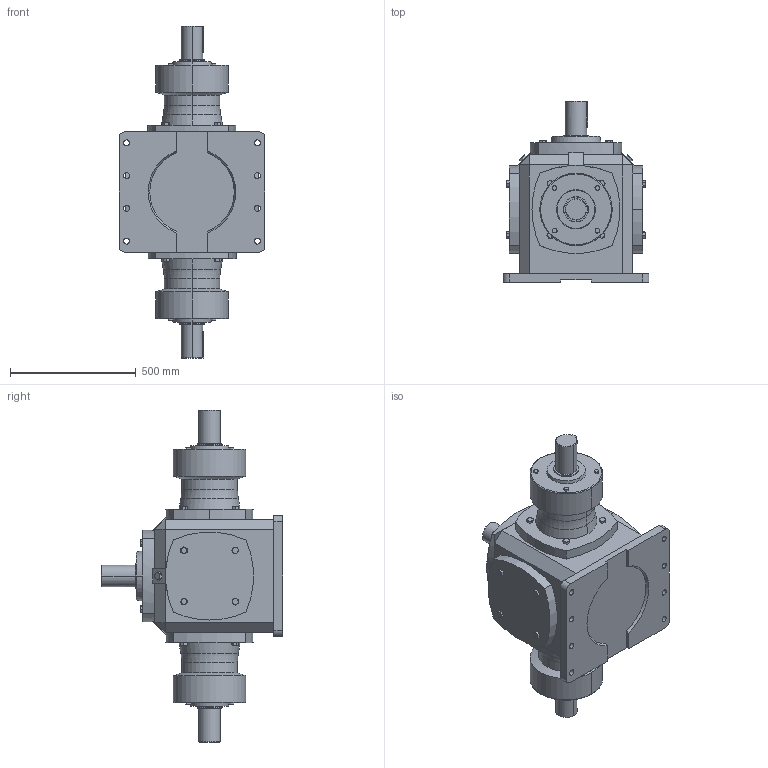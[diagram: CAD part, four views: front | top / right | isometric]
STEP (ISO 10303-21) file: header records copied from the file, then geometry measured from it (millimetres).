
FILE_DESCRIPTION (( 'STEP AP203' ), '1' );
FILE_NAME ('TC25-1-WSXH1-F2.step', '2018-07-14T07:46:12', ( 'IT Division' ), ( 'IT' ), 'SwSTEP 2.0', 'SolidWorks 2016', '' );
FILE_SCHEMA (( 'CONFIG_CONTROL_DESIGN' ));
Length unit declared in the file: millimetre
Products named in the file (1): TC25-1-WSXH1-F2
Bounding box: 580 x 720 x 1320 mm (x, y, z)
Volume: 153962959.7 mm3; surface area: 2755028.8 mm2
Topology: 3 solids, 3 shells, 603 faces, 1418 edges, 862 vertices
Faces by surface type: plane 286, cone 234, cylinder 75, torus 8
Entity records: 18750 total; most frequent: CARTESIAN_POINT 5331, ORIENTED_EDGE 2836, DIRECTION 2646, EDGE_CURVE 1418, AXIS2_PLACEMENT_3D 1009, VERTEX_POINT 862, EDGE_LOOP 660, LINE 628
